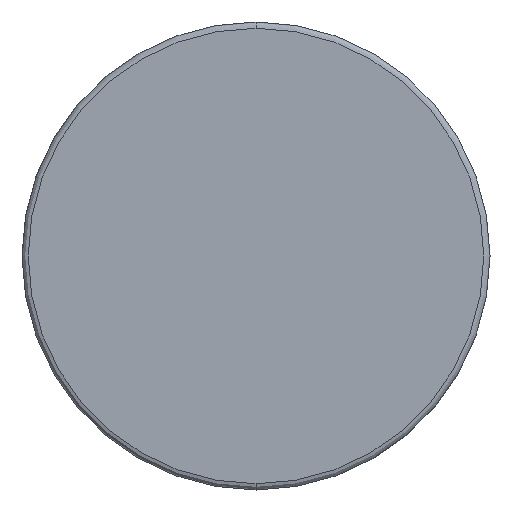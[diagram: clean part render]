
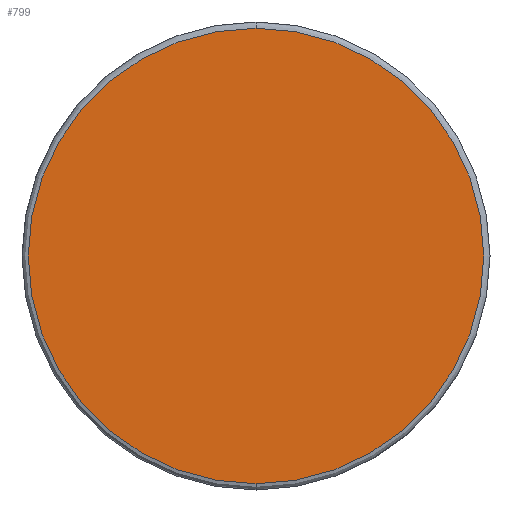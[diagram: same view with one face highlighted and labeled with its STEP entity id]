
A CAD part, front view. The second image highlights one B-rep face of the part: STEP entity #799.
In plain terms, the highlighted planar face has unit normal (0, -1, 0).
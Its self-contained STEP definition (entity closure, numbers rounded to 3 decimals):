
#24 = VERTEX_POINT ( 'NONE', #608 ) ;
#81 = DIRECTION ( 'NONE',  ( 0., 0., 1. ) ) ;
#85 = DIRECTION ( 'NONE',  ( 0., -1., 0. ) ) ;
#91 = CARTESIAN_POINT ( 'NONE',  ( 0., 0., 0. ) ) ;
#189 = CARTESIAN_POINT ( 'NONE',  ( 0., 0., -14.6 ) ) ;
#263 = CIRCLE ( 'NONE', #491, 14.6 ) ;
#329 = CIRCLE ( 'NONE', #651, 14.6 ) ;
#357 = EDGE_LOOP ( 'NONE', ( #443, #455 ) ) ;
#363 = DIRECTION ( 'NONE',  ( 0., 0., 1. ) ) ;
#443 = ORIENTED_EDGE ( 'NONE', *, *, #627, .T. ) ;
#448 = DIRECTION ( 'NONE',  ( 0., -1., 0. ) ) ;
#455 = ORIENTED_EDGE ( 'NONE', *, *, #888, .T. ) ;
#481 = DIRECTION ( 'NONE',  ( 0., 0., 1. ) ) ;
#483 = DIRECTION ( 'NONE',  ( 0., 1., 0. ) ) ;
#489 = CARTESIAN_POINT ( 'NONE',  ( 0., 0., 0. ) ) ;
#491 = AXIS2_PLACEMENT_3D ( 'NONE', #520, #448, #363 ) ;
#520 = CARTESIAN_POINT ( 'NONE',  ( 0., 0., 0. ) ) ;
#582 = AXIS2_PLACEMENT_3D ( 'NONE', #489, #483, #481 ) ;
#595 = VERTEX_POINT ( 'NONE', #189 ) ;
#608 = CARTESIAN_POINT ( 'NONE',  ( 0., 0., 14.6 ) ) ;
#627 = EDGE_CURVE ( 'NONE', #24, #595, #329, .T. ) ;
#632 = PLANE ( 'NONE',  #582 ) ;
#651 = AXIS2_PLACEMENT_3D ( 'NONE', #91, #85, #81 ) ;
#782 = FACE_OUTER_BOUND ( 'NONE', #357, .T. ) ;
#799 = ADVANCED_FACE ( 'NONE', ( #782 ), #632, .F. ) ;
#888 = EDGE_CURVE ( 'NONE', #595, #24, #263, .T. ) ;
